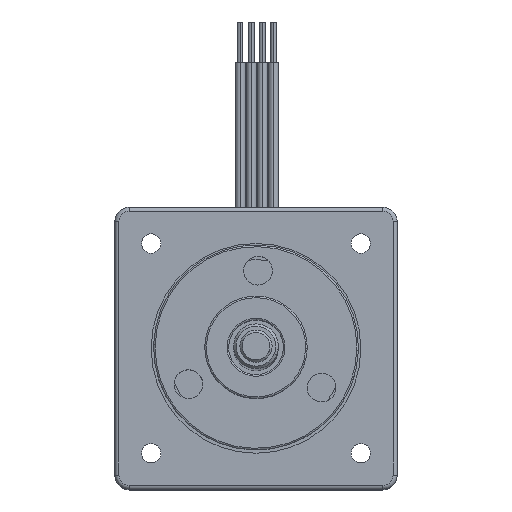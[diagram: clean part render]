
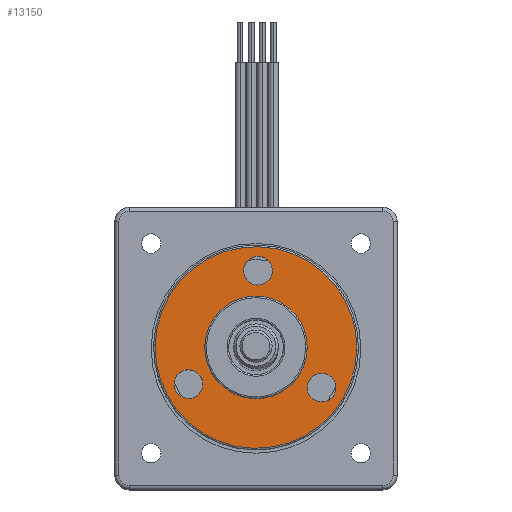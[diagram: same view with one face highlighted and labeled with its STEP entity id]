
A CAD part, top view. The second image highlights one B-rep face of the part: STEP entity #13150.
In plain terms, the highlighted planar face has unit normal (0, 0, 1).
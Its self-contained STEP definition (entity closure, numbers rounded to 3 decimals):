
#46 = CARTESIAN_POINT ( 'NONE',  ( -1.051, 8.195, 76.961 ) ) ;
#50 = DIRECTION ( 'NONE',  ( 0., 0., 1. ) ) ;
#51 = DIRECTION ( 'NONE',  ( 1., -0.026, 0. ) ) ;
#518 = CARTESIAN_POINT ( 'NONE',  ( -1.051, 8.195, 76.961 ) ) ;
#519 = DIRECTION ( 'NONE',  ( 0., 0., 1. ) ) ;
#520 = DIRECTION ( 'NONE',  ( 1., -0.026, 0. ) ) ;
#587 = DIRECTION ( 'NONE',  ( 1., -0.026, 0. ) ) ;
#615 = CARTESIAN_POINT ( 'NONE',  ( -1.298, -1.327, 76.961 ) ) ;
#616 = DIRECTION ( 'NONE',  ( 0., 0., 1. ) ) ;
#617 = DIRECTION ( 'NONE',  ( 1., -0.026, 0. ) ) ;
#730 = CARTESIAN_POINT ( 'NONE',  ( -9.668, -5.874, 76.961 ) ) ;
#731 = DIRECTION ( 'NONE',  ( 0., 0., 1. ) ) ;
#732 = DIRECTION ( 'NONE',  ( 1., -0.026, 0. ) ) ;
#1209 = ORIENTED_EDGE ( 'NONE', *, *, #10201, .F. ) ;
#1231 = ORIENTED_EDGE ( 'NONE', *, *, #10731, .F. ) ;
#1233 = ORIENTED_EDGE ( 'NONE', *, *, #10647, .F. ) ;
#1236 = ORIENTED_EDGE ( 'NONE', *, *, #10469, .F. ) ;
#1238 = ORIENTED_EDGE ( 'NONE', *, *, #10315, .F. ) ;
#1342 = ORIENTED_EDGE ( 'NONE', *, *, #10683, .F. ) ;
#1343 = ORIENTED_EDGE ( 'NONE', *, *, #10266, .T. ) ;
#1392 = ORIENTED_EDGE ( 'NONE', *, *, #10693, .T. ) ;
#1394 = ORIENTED_EDGE ( 'NONE', *, *, #10598, .F. ) ;
#1435 = ORIENTED_EDGE ( 'NONE', *, *, #10128, .F. ) ;
#2935 = CARTESIAN_POINT ( 'NONE',  ( 11.197, -1.651, 76.961 ) ) ;
#2944 = CARTESIAN_POINT ( 'NONE',  ( -11.447, -5.827, 76.961 ) ) ;
#2990 = CARTESIAN_POINT ( 'NONE',  ( -7.889, -5.92, 76.961 ) ) ;
#3171 = CARTESIAN_POINT ( 'NONE',  ( -2.831, 8.241, 76.961 ) ) ;
#3837 = AXIS2_PLACEMENT_3D ( 'NONE', #518, #519, #520 ) ;
#4749 = CARTESIAN_POINT ( 'NONE',  ( -1.298, -1.327, 76.961 ) ) ;
#4750 = DIRECTION ( 'NONE',  ( 0., 0., 1. ) ) ;
#4751 = DIRECTION ( 'NONE',  ( 1., -0.026, 0. ) ) ;
#4969 = CARTESIAN_POINT ( 'NONE',  ( 6.824, -6.301, 76.961 ) ) ;
#4970 = DIRECTION ( 'NONE',  ( 0., 0., 1. ) ) ;
#4971 = DIRECTION ( 'NONE',  ( 1., -0.026, 0. ) ) ;
#5165 = CARTESIAN_POINT ( 'NONE',  ( -1.298, -1.327, 76.961 ) ) ;
#5166 = DIRECTION ( 'NONE',  ( 0., 0., 1. ) ) ;
#5167 = DIRECTION ( 'NONE',  ( 1., -0.026, 0. ) ) ;
#5654 = CARTESIAN_POINT ( 'NONE',  ( -1.298, -1.327, 76.961 ) ) ;
#5655 = DIRECTION ( 'NONE',  ( 0., 0., 1. ) ) ;
#5656 = DIRECTION ( 'NONE',  ( 1., -0.026, 0. ) ) ;
#5804 = CARTESIAN_POINT ( 'NONE',  ( -9.668, -5.874, 76.961 ) ) ;
#5805 = DIRECTION ( 'NONE',  ( 0., 0., 1. ) ) ;
#5806 = DIRECTION ( 'NONE',  ( 1., -0.026, 0. ) ) ;
#5914 = CARTESIAN_POINT ( 'NONE',  ( 6.824, -6.301, 76.961 ) ) ;
#5915 = DIRECTION ( 'NONE',  ( 0., 0., 1. ) ) ;
#6008 = AXIS2_PLACEMENT_3D ( 'NONE', #4969, #4970, #4971 ) ;
#6060 = AXIS2_PLACEMENT_3D ( 'NONE', #4749, #4750, #4751 ) ;
#6480 = AXIS2_PLACEMENT_3D ( 'NONE', #5804, #5805, #5806 ) ;
#6525 = AXIS2_PLACEMENT_3D ( 'NONE', #5654, #5655, #5656 ) ;
#6565 = AXIS2_PLACEMENT_3D ( 'NONE', #615, #616, #617 ) ;
#6572 = AXIS2_PLACEMENT_3D ( 'NONE', #5914, #5915, #587 ) ;
#6641 = AXIS2_PLACEMENT_3D ( 'NONE', #730, #731, #732 ) ;
#7113 = EDGE_LOOP ( 'NONE', ( #1236, #1238 ) ) ;
#7121 = EDGE_LOOP ( 'NONE', ( #1343, #1392 ) ) ;
#7122 = EDGE_LOOP ( 'NONE', ( #1394, #1435 ) ) ;
#7141 = EDGE_LOOP ( 'NONE', ( #1342, #1209 ) ) ;
#7179 = EDGE_LOOP ( 'NONE', ( #1231, #1233 ) ) ;
#7427 = FACE_OUTER_BOUND ( 'NONE', #7121, .T. ) ;
#7444 = FACE_BOUND ( 'NONE', #7141, .T. ) ;
#7445 = FACE_BOUND ( 'NONE', #7113, .T. ) ;
#7447 = FACE_BOUND ( 'NONE', #7122, .T. ) ;
#7448 = AXIS2_PLACEMENT_3D ( 'NONE', #7996, #7997, #7998 ) ;
#7461 = FACE_BOUND ( 'NONE', #7179, .T. ) ;
#7995 = PLANE ( 'NONE',  #7448 ) ;
#7996 = CARTESIAN_POINT ( 'NONE',  ( -1.298, -1.327, 76.961 ) ) ;
#7997 = DIRECTION ( 'NONE',  ( 0., 0., 1. ) ) ;
#7998 = DIRECTION ( 'NONE',  ( 1., -0.026, 0. ) ) ;
#8981 = VERTEX_POINT ( 'NONE', #9508 ) ;
#9009 = VERTEX_POINT ( 'NONE', #9532 ) ;
#9055 = VERTEX_POINT ( 'NONE', #9578 ) ;
#9117 = VERTEX_POINT ( 'NONE', #9640 ) ;
#9155 = VERTEX_POINT ( 'NONE', #9678 ) ;
#9196 = VERTEX_POINT ( 'NONE', #9719 ) ;
#9330 = AXIS2_PLACEMENT_3D ( 'NONE', #5165, #5166, #5167 ) ;
#9405 = AXIS2_PLACEMENT_3D ( 'NONE', #46, #50, #51 ) ;
#9508 = CARTESIAN_POINT ( 'NONE',  ( 5.045, -6.255, 76.961 ) ) ;
#9532 = CARTESIAN_POINT ( 'NONE',  ( 5.049, -1.491, 76.961 ) ) ;
#9578 = CARTESIAN_POINT ( 'NONE',  ( 8.604, -6.348, 76.961 ) ) ;
#9640 = CARTESIAN_POINT ( 'NONE',  ( -7.646, -1.162, 76.961 ) ) ;
#9678 = CARTESIAN_POINT ( 'NONE',  ( -13.794, -1.003, 76.961 ) ) ;
#9719 = CARTESIAN_POINT ( 'NONE',  ( 0.728, 8.149, 76.961 ) ) ;
#10128 = EDGE_CURVE ( 'NONE', #9009, #9117, #11343, .T. ) ;
#10201 = EDGE_CURVE ( 'NONE', #9055, #8981, #11395, .T. ) ;
#10266 = EDGE_CURVE ( 'NONE', #12267, #9155, #11036, .T. ) ;
#10315 = EDGE_CURVE ( 'NONE', #9196, #12613, #11489, .T. ) ;
#10469 = EDGE_CURVE ( 'NONE', #12613, #9196, #11113, .T. ) ;
#10598 = EDGE_CURVE ( 'NONE', #9117, #9009, #11303, .T. ) ;
#10647 = EDGE_CURVE ( 'NONE', #12346, #12278, #11154, .T. ) ;
#10683 = EDGE_CURVE ( 'NONE', #8981, #9055, #11040, .T. ) ;
#10693 = EDGE_CURVE ( 'NONE', #9155, #12267, #11200, .T. ) ;
#10731 = EDGE_CURVE ( 'NONE', #12278, #12346, #11403, .T. ) ;
#11036 = CIRCLE ( 'NONE', #9330, 12.5 ) ;
#11040 = CIRCLE ( 'NONE', #6572, 1.78 ) ;
#11113 = CIRCLE ( 'NONE', #3837, 1.78 ) ;
#11154 = CIRCLE ( 'NONE', #6480, 1.78 ) ;
#11200 = CIRCLE ( 'NONE', #6565, 12.5 ) ;
#11303 = CIRCLE ( 'NONE', #6525, 6.35 ) ;
#11343 = CIRCLE ( 'NONE', #6060, 6.35 ) ;
#11395 = CIRCLE ( 'NONE', #6008, 1.78 ) ;
#11403 = CIRCLE ( 'NONE', #6641, 1.78 ) ;
#11489 = CIRCLE ( 'NONE', #9405, 1.78 ) ;
#12267 = VERTEX_POINT ( 'NONE', #2935 ) ;
#12278 = VERTEX_POINT ( 'NONE', #2944 ) ;
#12346 = VERTEX_POINT ( 'NONE', #2990 ) ;
#12613 = VERTEX_POINT ( 'NONE', #3171 ) ;
#13150 = ADVANCED_FACE ( 'NONE', ( #7427, #7447, #7444, #7445, #7461 ), #7995, .T. ) ;
